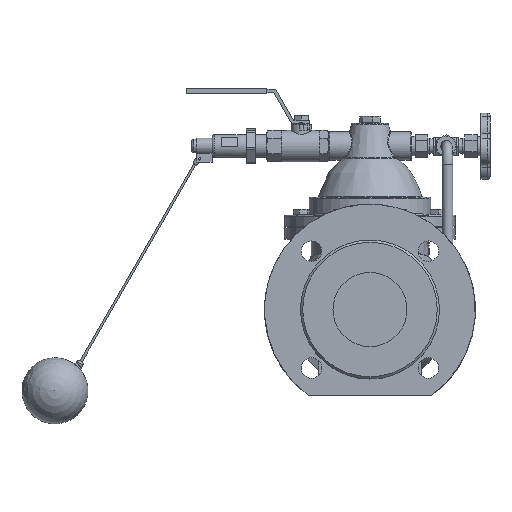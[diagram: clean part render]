
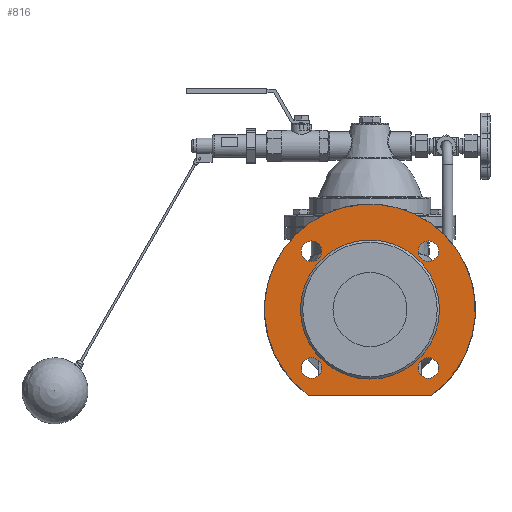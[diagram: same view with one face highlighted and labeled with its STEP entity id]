
A CAD part, top view. The second image highlights one B-rep face of the part: STEP entity #816.
In plain terms, the highlighted planar face has unit normal (0, 0, 1).
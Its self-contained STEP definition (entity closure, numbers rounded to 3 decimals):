
#816=ADVANCED_FACE('',(#4695,#4697,#4699,#4701,#4703,#4705),#4707,.F.);
#4695=FACE_BOUND('',#4696,.T.);
#4696=EDGE_LOOP('',(#10502,#10503));
#4697=FACE_BOUND('',#4698,.T.);
#4698=EDGE_LOOP('',(#10504));
#4699=FACE_BOUND('',#4700,.T.);
#4700=EDGE_LOOP('',(#10505));
#4701=FACE_BOUND('',#4702,.T.);
#4702=EDGE_LOOP('',(#10506));
#4703=FACE_BOUND('',#4704,.T.);
#4704=EDGE_LOOP('',(#10507));
#4705=FACE_BOUND('',#4706,.T.);
#4706=EDGE_LOOP('',(#10508));
#4707=PLANE('',#4708);
#4708=AXIS2_PLACEMENT_3D('',#4709,#4710,#4711);
#4709=CARTESIAN_POINT('',(0.,0.,115.5));
#4710=DIRECTION('',(0.,0.,-1.));
#4711=DIRECTION('',(-1.,0.,0.));
#10502=ORIENTED_EDGE('',*,*,#13482,.T.);
#10503=ORIENTED_EDGE('',*,*,#13603,.F.);
#10504=ORIENTED_EDGE('',*,*,#13604,.T.);
#10505=ORIENTED_EDGE('',*,*,#13486,.F.);
#10506=ORIENTED_EDGE('',*,*,#13487,.F.);
#10507=ORIENTED_EDGE('',*,*,#13488,.F.);
#10508=ORIENTED_EDGE('',*,*,#13489,.F.);
#13482=EDGE_CURVE('',#15580,#15578,#15581,.T.);
#13486=EDGE_CURVE('',#15586,#15586,#15587,.T.);
#13487=EDGE_CURVE('',#15588,#15588,#15589,.T.);
#13488=EDGE_CURVE('',#15590,#15590,#15591,.T.);
#13489=EDGE_CURVE('',#15592,#15592,#15593,.T.);
#13603=EDGE_CURVE('',#15580,#15578,#15801,.T.);
#13604=EDGE_CURVE('',#15802,#15802,#15803,.T.);
#15578=VERTEX_POINT('',#25386);
#15580=VERTEX_POINT('',#25390);
#15581=LINE('',#25391,#25392);
#15586=VERTEX_POINT('',#25546);
#15587=CIRCLE('',#25547,9.);
#15588=VERTEX_POINT('',#25551);
#15589=CIRCLE('',#25552,9.);
#15590=VERTEX_POINT('',#25556);
#15591=CIRCLE('',#25557,9.);
#15592=VERTEX_POINT('',#25561);
#15593=CIRCLE('',#25562,9.);
#15801=CIRCLE('',#26068,92.5);
#15802=VERTEX_POINT('',#26072);
#15803=CIRCLE('',#26073,61.);
#25386=CARTESIAN_POINT('',(54.141,-75.,115.5));
#25390=CARTESIAN_POINT('',(-54.141,-75.,115.5));
#25391=CARTESIAN_POINT('',(-54.141,-75.,115.5));
#25392=VECTOR('',#25393,1.);
#25393=DIRECTION('',(1.,0.,0.));
#25546=CARTESIAN_POINT('',(-60.265,51.265,115.5));
#25547=AXIS2_PLACEMENT_3D('',#25548,#25549,#25550);
#25548=CARTESIAN_POINT('',(-51.265,51.265,115.5));
#25549=DIRECTION('',(0.,0.,1.));
#25550=DIRECTION('',(-1.,0.,0.));
#25551=CARTESIAN_POINT('',(42.265,51.265,115.5));
#25552=AXIS2_PLACEMENT_3D('',#25553,#25554,#25555);
#25553=CARTESIAN_POINT('',(51.265,51.265,115.5));
#25554=DIRECTION('',(0.,0.,1.));
#25555=DIRECTION('',(-1.,0.,0.));
#25556=CARTESIAN_POINT('',(42.265,-51.265,115.5));
#25557=AXIS2_PLACEMENT_3D('',#25558,#25559,#25560);
#25558=CARTESIAN_POINT('',(51.265,-51.265,115.5));
#25559=DIRECTION('',(0.,0.,1.));
#25560=DIRECTION('',(-1.,0.,0.));
#25561=CARTESIAN_POINT('',(-60.265,-51.265,115.5));
#25562=AXIS2_PLACEMENT_3D('',#25563,#25564,#25565);
#25563=CARTESIAN_POINT('',(-51.265,-51.265,115.5));
#25564=DIRECTION('',(0.,0.,1.));
#25565=DIRECTION('',(-1.,0.,0.));
#26068=AXIS2_PLACEMENT_3D('',#26069,#26070,#26071);
#26069=CARTESIAN_POINT('',(0.,0.,115.5));
#26070=DIRECTION('',(0.,0.,-1.));
#26071=DIRECTION('',(-0.585,-0.811,0.));
#26072=CARTESIAN_POINT('',(-61.,0.,115.5));
#26073=AXIS2_PLACEMENT_3D('',#26074,#26075,#26076);
#26074=CARTESIAN_POINT('',(0.,0.,115.5));
#26075=DIRECTION('',(0.,0.,-1.));
#26076=DIRECTION('',(-1.,0.,0.));
